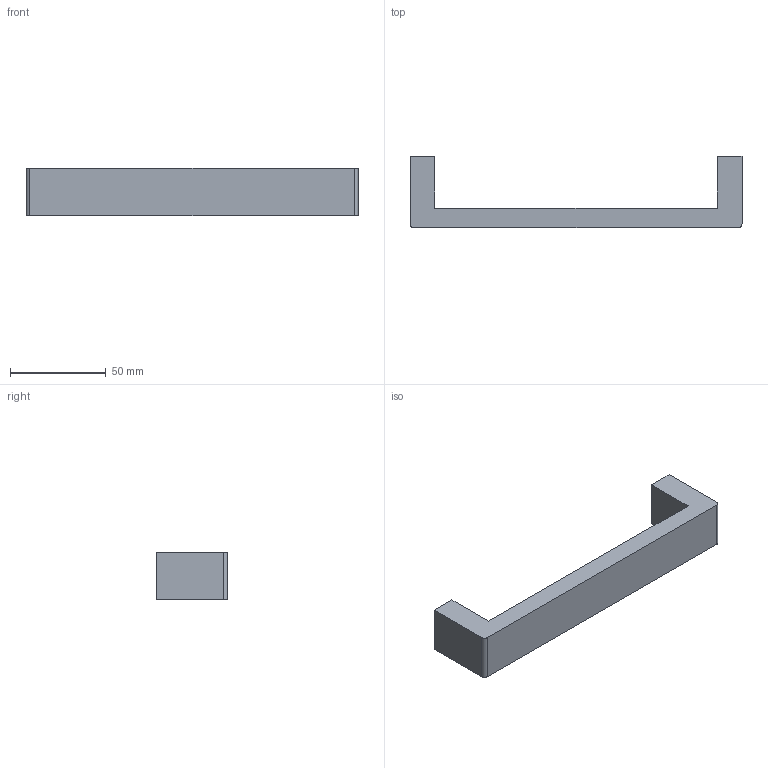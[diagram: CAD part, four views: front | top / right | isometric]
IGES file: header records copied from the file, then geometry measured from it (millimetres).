
Start section: Data from Parasolid IGES Translator 15.0.47, Copyright(c) 2006 Siemens P LM Software. All Rights Reserved.
Global section: file name: 115385.igs; native system:  By UGS Corp.; preprocessor: XPlus GENERIC/IGES 3.0; author: Noname; organization: Noname; date: 20151204.133915; units: millimetre
Bounding box: 173 x 37 x 25 mm (x, y, z)
Surface area: 16868.7 mm2 (no closed solid volume)
Topology: 0 solids, 0 shells, 16 faces, 72 edges, 70 vertices
Faces by surface type: extrusion 12, revolution 4
